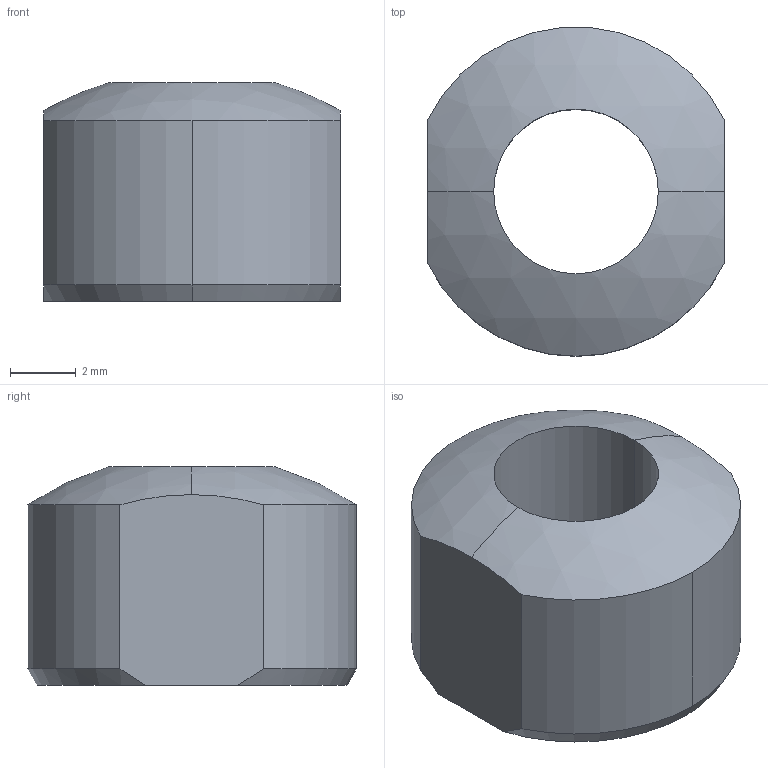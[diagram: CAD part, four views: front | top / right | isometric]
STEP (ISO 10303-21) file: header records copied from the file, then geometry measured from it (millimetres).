
FILE_DESCRIPTION (( 'STEP AP203' ), '1' );
FILE_NAME ('tcdnut05.STEP', '2021-10-26T06:13:33', ( '' ), ( '' ), 'SwSTEP 2.0', 'SolidWorks 2020', '' );
FILE_SCHEMA (( 'CONFIG_CONTROL_DESIGN' ));
Length unit declared in the file: millimetre
Products named in the file (1): tcdnut05
Bounding box: 9 x 9.98 x 6.65 mm (x, y, z)
Volume: 339.9 mm3; surface area: 389.8 mm2
Topology: 1 solids, 1 shells, 13 faces, 33 edges, 21 vertices
Faces by surface type: cylinder 5, cone 3, plane 3, sphere 2
Entity records: 487 total; most frequent: CARTESIAN_POINT 80, DIRECTION 76, ORIENTED_EDGE 66, AXIS2_PLACEMENT_3D 33, EDGE_CURVE 33, VERTEX_POINT 21, CIRCLE 19, EDGE_LOOP 14
